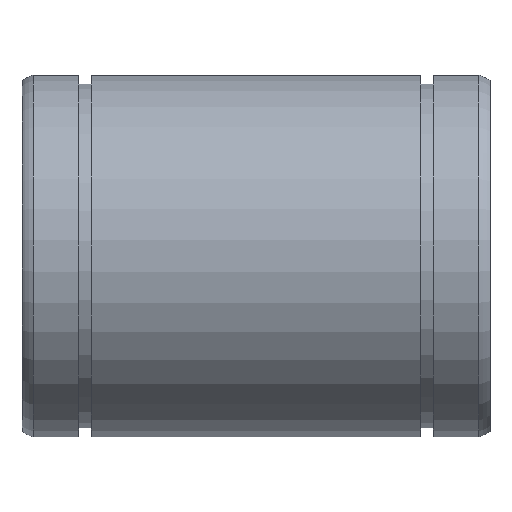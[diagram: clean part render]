
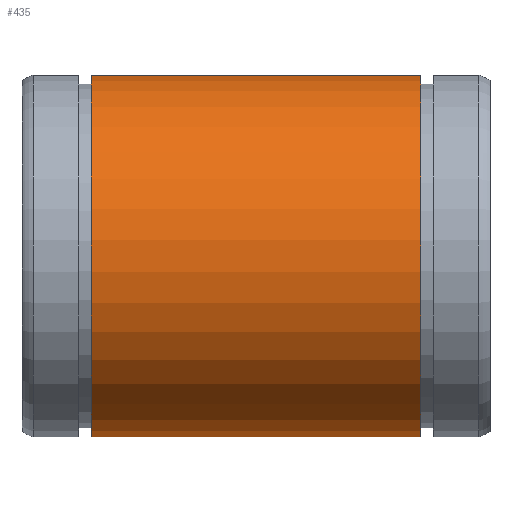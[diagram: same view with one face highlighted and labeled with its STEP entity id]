
A CAD part, top view. The second image highlights one B-rep face of the part: STEP entity #435.
In plain terms, the highlighted cylindrical face has radius 31 mm (diameter 62 mm), a partial arc.
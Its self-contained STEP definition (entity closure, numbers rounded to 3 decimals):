
#177=CARTESIAN_POINT('',(11.8,13.049,-28.12));
#178=VERTEX_POINT('',#177);
#185=CARTESIAN_POINT('',(68.2,13.049,-28.12));
#186=VERTEX_POINT('',#185);
#187=CARTESIAN_POINT('',(68.2,13.049,-28.12));
#188=DIRECTION('',(-1.0,0.0,0.0));
#189=VECTOR('',#188,56.4);
#190=LINE('',#187,#189);
#191=EDGE_CURVE('',#186,#178,#190,.T.);
#233=CARTESIAN_POINT('',(68.2,-13.049,-28.12));
#234=VERTEX_POINT('',#233);
#241=CARTESIAN_POINT('',(11.8,-13.049,-28.12));
#242=VERTEX_POINT('',#241);
#243=CARTESIAN_POINT('',(11.8,-13.049,-28.12));
#244=DIRECTION('',(1.0,0.0,0.0));
#245=VECTOR('',#244,56.4);
#246=LINE('',#243,#245);
#247=EDGE_CURVE('',#242,#234,#246,.T.);
#406=CARTESIAN_POINT('',(68.2,0.0,0.));
#407=DIRECTION('',(-1.0,0.0,0.0));
#408=DIRECTION('',(0.0,0.0,1.0));
#409=AXIS2_PLACEMENT_3D('',#406,#407,#408);
#410=CIRCLE('',#409,31.);
#411=EDGE_CURVE('',#234,#186,#410,.T.);
#418=CARTESIAN_POINT('',(40.,0.0,0.));
#419=DIRECTION('',(-1.0,0.0,0.0));
#420=DIRECTION('',(0.0,0.0,1.0));
#421=AXIS2_PLACEMENT_3D('',#418,#419,#420);
#422=CYLINDRICAL_SURFACE('',#421,31.);
#423=ORIENTED_EDGE('',*,*,#191,.T.);
#424=CARTESIAN_POINT('',(11.8,0.0,0.));
#425=DIRECTION('',(-1.0,0.0,0.0));
#426=DIRECTION('',(0.0,0.0,1.0));
#427=AXIS2_PLACEMENT_3D('',#424,#425,#426);
#428=CIRCLE('',#427,31.0);
#429=EDGE_CURVE('',#242,#178,#428,.T.);
#430=ORIENTED_EDGE('',*,*,#429,.F.);
#431=ORIENTED_EDGE('',*,*,#247,.T.);
#432=ORIENTED_EDGE('',*,*,#411,.T.);
#433=EDGE_LOOP('',(#423,#430,#431,#432));
#434=FACE_OUTER_BOUND('',#433,.T.);
#435=ADVANCED_FACE('',(#434),#422,.T.);
